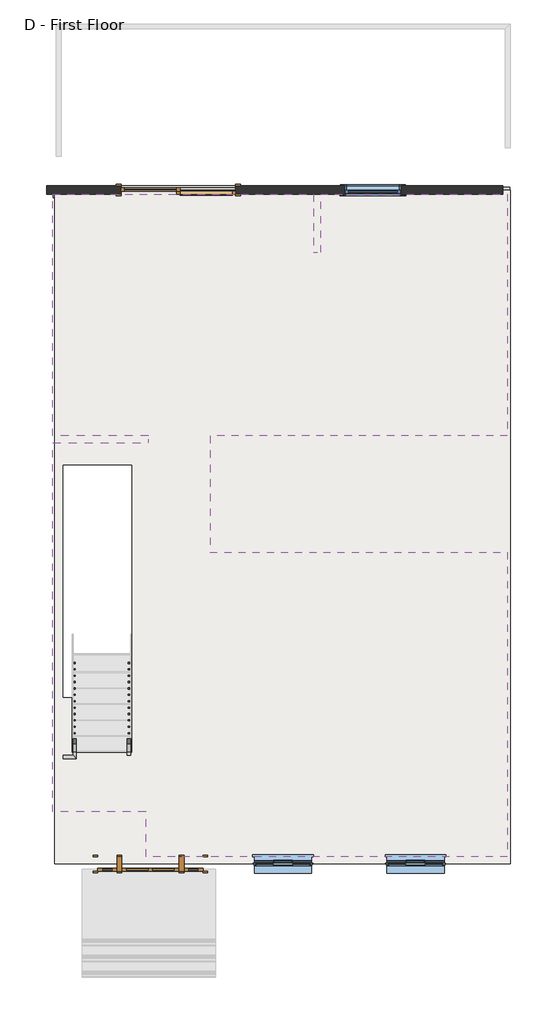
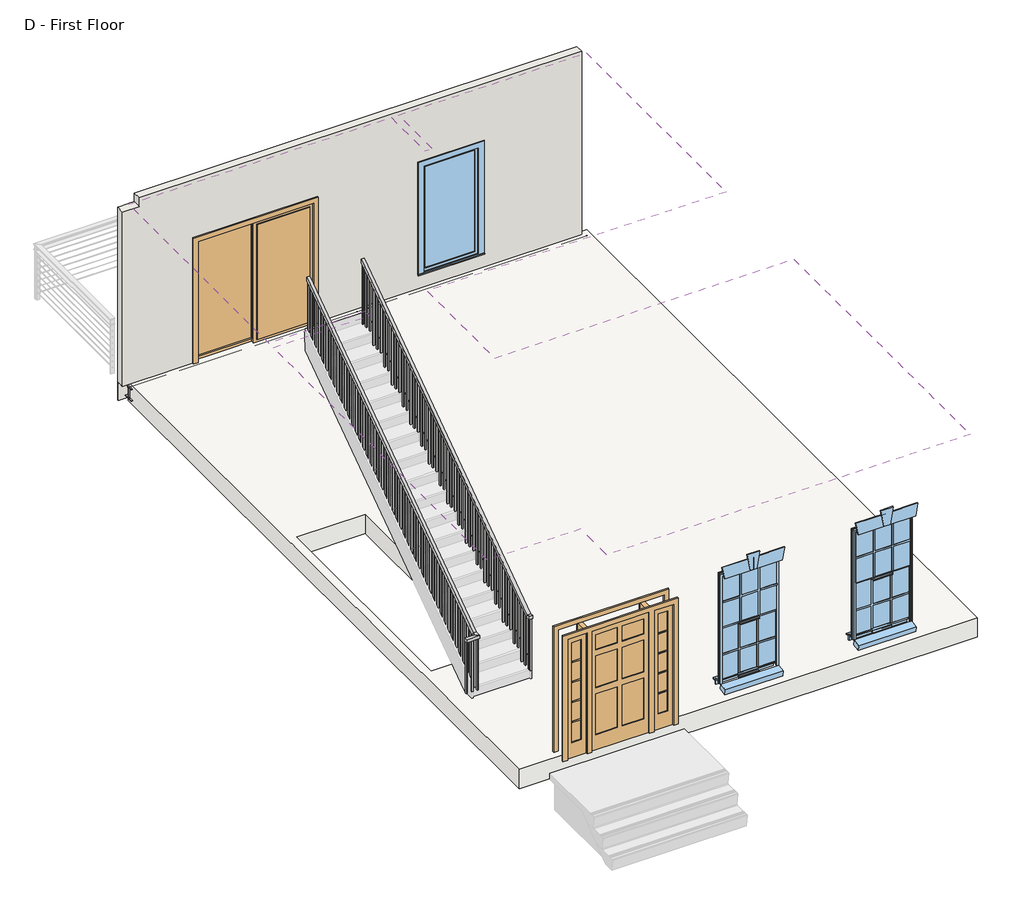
# One storey, part 1 of 2: 3 windows, 2 beams, 2 doors, 2 railings, 1 covering, 1 slab, 1 wall.
"""IFC4 building model written with IfcOpenShell, lengths in millimetres."""

from ifc_helpers import new_model, si_unit, frame, origin, place, context, project, spatial, polyline, outline, extrude, faceted_brep, transform, mapped, element, save
from components import w_wide_flange_w8x24_5daaecee, w_wide_flange_w8x24_1566cf3c, door_cdccc48c, door_ba367ff0, window_19b24cb0, window_32c76565

model = new_model("IFC4")

# Units and contexts
model_context = context("Model", 3, world=origin())
ifc_project = project(units=[si_unit("LENGTHUNIT", "METRE", prefix="MILLI")], contexts=[model_context])

# Site, building, storey
site = spatial("IfcSite", under=ifc_project)
building = spatial("IfcBuilding", under=site)
storey = spatial("IfcBuildingStorey", under=building, Name="D - First Floor", Elevation=1828.8)

# Beams
placement = place(None, origin())
w_wide_flange_w8x24_shape = w_wide_flange_w8x24_5daaecee(model_context)
element("IfcBeam", 1, ObjectType="W-Wide Flange : W8X24", at=placement, inside=storey, context=model_context, shape_type="MappedRepresentation", body=[
    mapped(w_wide_flange_w8x24_shape, transform((16035.8120514, 3462.6960538, 1670.939), x_axis=(1.0, 0.0, 0.0), y_axis=(0.0, 1.0, 0.0), z_axis=(0.0, 0.0, 1.0))),
])
w_wide_flange_w8x24_2_shape = w_wide_flange_w8x24_1566cf3c(model_context)
element("IfcBeam", 2, ObjectType="W-Wide Flange : W8X24", at=placement, inside=storey, context=model_context, shape_type="MappedRepresentation", body=[
    mapped(w_wide_flange_w8x24_2_shape, transform((12397.2620514, 3462.6960538, 1670.939), x_axis=(1.0, 0.0, 0.0), y_axis=(0.0, 1.0, 0.0), z_axis=(0.0, 0.0, 1.0))),
])

# Covering
element("IfcCovering", 3, ObjectType="GWB on Furring", at=placement, inside=storey, context=model_context, shape_type="SweptSolid", body=[
    extrude(outline(polyline([(13073.5370514, -2271.3539462), (17813.8120514, -2271.3539462), (17813.8120514, -7122.7539462), (12051.1870514, -7122.7539462), (12051.1870514, -6411.5539462), (10565.2870514, -6411.5539462), (10565.2870514, -531.4539462), (12092.4620514, -531.4539462), (12092.4620514, -417.1539462), (10565.2870514, -417.1539462), (10565.2870514, 3430.9460538), (14724.5370514, 3430.9460538), (14724.5370514, 2503.8460538), (14838.8370514, 2503.8460538), (14838.8370514, 3430.9460538), (17813.8120514, 3430.9460538), (17813.8120514, -417.2482531), (13073.5370514, -417.2482531), (13073.5370514, -2271.3539462)]), holes=[polyline([(10730.3870514, -4582.7539462), (11822.5870514, -4582.7539462), (11822.5870514, -887.0539462), (10730.3870514, -887.0539462), (10730.3870514, -4582.7539462)])]), frame((0.0, 0.0, 4851.4), z_axis=(0.0, 0.0, 1.0), x_axis=(1.0, 0.0, 0.0)), (0.0, 0.0, 1.0), 31.75),
])

# Doors
door_shape = door_cdccc48c(model_context)
element("IfcDoor", 4, ObjectType="Door-Double-Sliding : 72\" x 80\"", at=placement, inside=storey, context=model_context, shape_type="MappedRepresentation", body=[
    mapped(door_shape, transform((12565.5370514, 3624.6210538, 1828.8), x_axis=(-1.0, 0.0, 0.0), y_axis=(0.0, -1.0, 0.0), z_axis=(0.0, 0.0, 1.0))),
])
door_2_shape = door_ba367ff0(model_context)
element("IfcDoor", 5, ObjectType="Single-Raised Panel with Sidelights : 36\" x 80\" 2", at=placement, inside=storey, context=model_context, shape_type="MappedRepresentation", body=[
    mapped(door_2_shape, transform((12121.0370514, -7238.6414462, 1828.8), x_axis=(-1.0, 0.0, 0.0), y_axis=(0.0, -1.0, 0.0), z_axis=(0.0, 0.0, 1.0))),
])

# Railings
element("IfcRailing", 6, ObjectType="Handrail - Rectangular", at=placement, inside=storey, context=model_context, shape_type="SolidModel", body=[
    faceted_brep([(11752.7370514, -5509.8539462, 2939.7157895), (11752.7370514, -5509.8539462, 2888.9157895), (11803.5370514, -5509.8539462, 2888.9157895), (11803.5370514, -5509.8539462, 2939.7157895), (11752.7370514, -5459.0539462, 2939.7157895), (11752.7370514, -5443.0653277, 2888.9157895), (11803.5370514, -5443.0653277, 2888.9157895), (11803.5370514, -5459.0539462, 2939.7157895), (11752.7370514, -887.0539462, 6134.1), (11803.5370514, -887.0539462, 6134.1), (11803.5370514, -887.0539462, 6072.1290047), (11752.7370514, -887.0539462, 6072.1290047)], [[[0, 1, 2, 3]], [[1, 0, 4, 5]], [[2, 1, 5, 6]], [[3, 2, 6, 7]], [[0, 3, 7, 4]], [[8, 9, 10, 11]], [[5, 4, 8, 11]], [[6, 5, 11, 10]], [[7, 6, 10, 9]], [[4, 7, 9, 8]]]),
    extrude(outline(polyline([(-998.1789462, 5994.4877218), (-979.1289462, 6007.797656), (-979.1289462, 5042.2342105), (-998.1789462, 5042.2342105), (-998.1789462, 5994.4877218)])), frame((11768.6120514, 0.0, 0.0), z_axis=(1.0, 0.0, 0.0), x_axis=(0.0, 1.0, 0.0)), (0.0, 0.0, 1.0), 19.05),
    extrude(outline(polyline([(-1099.7789462, 5923.501406), (-1080.7289462, 5936.8113402), (-1080.7289462, 5042.2342105), (-1099.7789462, 5042.2342105), (-1099.7789462, 5923.501406)])), frame((11768.6120514, 0.0, 0.0), z_axis=(1.0, 0.0, 0.0), x_axis=(0.0, 1.0, 0.0)), (0.0, 0.0, 1.0), 19.05),
    extrude(outline(polyline([(-1201.3789462, 5852.5150902), (-1182.3289462, 5865.8250244), (-1182.3289462, 4864.7684211), (-1201.3789462, 4864.7684211), (-1201.3789462, 5852.5150902)])), frame((11768.6120514, 0.0, 0.0), z_axis=(1.0, 0.0, 0.0), x_axis=(0.0, 1.0, 0.0)), (0.0, 0.0, 1.0), 19.05),
    extrude(outline(polyline([(-1302.9789462, 5781.5287744), (-1283.9289462, 5794.8387087), (-1283.9289462, 4864.7684211), (-1302.9789462, 4864.7684211), (-1302.9789462, 5781.5287744)])), frame((11768.6120514, 0.0, 0.0), z_axis=(1.0, 0.0, 0.0), x_axis=(0.0, 1.0, 0.0)), (0.0, 0.0, 1.0), 19.05),
    extrude(outline(polyline([(-1404.5789462, 5710.5424587), (-1385.5289462, 5723.8523929), (-1385.5289462, 4864.7684211), (-1404.5789462, 4864.7684211), (-1404.5789462, 5710.5424587)])), frame((11768.6120514, 0.0, 0.0), z_axis=(1.0, 0.0, 0.0), x_axis=(0.0, 1.0, 0.0)), (0.0, 0.0, 1.0), 19.05),
    extrude(outline(polyline([(-1506.1789462, 5639.5561429), (-1487.1289462, 5652.8660771), (-1487.1289462, 4687.3026316), (-1506.1789462, 4687.3026316), (-1506.1789462, 5639.5561429)])), frame((11768.6120514, 0.0, 0.0), z_axis=(1.0, 0.0, 0.0), x_axis=(0.0, 1.0, 0.0)), (0.0, 0.0, 1.0), 19.05),
    extrude(outline(polyline([(-1607.7789462, 5568.5698271), (-1588.7289462, 5581.8797613), (-1588.7289462, 4687.3026316), (-1607.7789462, 4687.3026316), (-1607.7789462, 5568.5698271)])), frame((11768.6120514, 0.0, 0.0), z_axis=(1.0, 0.0, 0.0), x_axis=(0.0, 1.0, 0.0)), (0.0, 0.0, 1.0), 19.05),
    extrude(outline(polyline([(-1709.3789462, 5497.5835113), (-1690.3289462, 5510.8934455), (-1690.3289462, 4509.8368421), (-1709.3789462, 4509.8368421), (-1709.3789462, 5497.5835113)])), frame((11768.6120514, 0.0, 0.0), z_axis=(1.0, 0.0, 0.0), x_axis=(0.0, 1.0, 0.0)), (0.0, 0.0, 1.0), 19.05),
    extrude(outline(polyline([(-1810.9789462, 5426.5971955), (-1791.9289462, 5439.9071297), (-1791.9289462, 4509.8368421), (-1810.9789462, 4509.8368421), (-1810.9789462, 5426.5971955)])), frame((11768.6120514, 0.0, 0.0), z_axis=(1.0, 0.0, 0.0), x_axis=(0.0, 1.0, 0.0)), (0.0, 0.0, 1.0), 19.05),
    extrude(outline(polyline([(-1912.5789462, 5355.6108797), (-1893.5289462, 5368.9208139), (-1893.5289462, 4509.8368421), (-1912.5789462, 4509.8368421), (-1912.5789462, 5355.6108797)])), frame((11768.6120514, 0.0, 0.0), z_axis=(1.0, 0.0, 0.0), x_axis=(0.0, 1.0, 0.0)), (0.0, 0.0, 1.0), 19.05),
    extrude(outline(polyline([(-2014.1789462, 5284.6245639), (-1995.1289462, 5297.9344981), (-1995.1289462, 4332.3710526), (-2014.1789462, 4332.3710526), (-2014.1789462, 5284.6245639)])), frame((11768.6120514, 0.0, 0.0), z_axis=(1.0, 0.0, 0.0), x_axis=(0.0, 1.0, 0.0)), (0.0, 0.0, 1.0), 19.05),
    extrude(outline(polyline([(-2115.7789462, 5213.6382481), (-2096.7289462, 5226.9481823), (-2096.7289462, 4332.3710526), (-2115.7789462, 4332.3710526), (-2115.7789462, 5213.6382481)])), frame((11768.6120514, 0.0, 0.0), z_axis=(1.0, 0.0, 0.0), x_axis=(0.0, 1.0, 0.0)), (0.0, 0.0, 1.0), 19.05),
    extrude(outline(polyline([(-2217.3789462, 5142.6519323), (-2198.3289462, 5155.9618666), (-2198.3289462, 4154.9052632), (-2217.3789462, 4154.9052632), (-2217.3789462, 5142.6519323)])), frame((11768.6120514, 0.0, 0.0), z_axis=(1.0, 0.0, 0.0), x_axis=(0.0, 1.0, 0.0)), (0.0, 0.0, 1.0), 19.05),
    extrude(outline(polyline([(-2318.9789462, 5071.6656166), (-2299.9289462, 5084.9755508), (-2299.9289462, 4154.9052632), (-2318.9789462, 4154.9052632), (-2318.9789462, 5071.6656166)])), frame((11768.6120514, 0.0, 0.0), z_axis=(1.0, 0.0, 0.0), x_axis=(0.0, 1.0, 0.0)), (0.0, 0.0, 1.0), 19.05),
    extrude(outline(polyline([(-2420.5789462, 5000.6793008), (-2401.5289462, 5013.989235), (-2401.5289462, 4154.9052632), (-2420.5789462, 4154.9052632), (-2420.5789462, 5000.6793008)])), frame((11768.6120514, 0.0, 0.0), z_axis=(1.0, 0.0, 0.0), x_axis=(0.0, 1.0, 0.0)), (0.0, 0.0, 1.0), 19.05),
    extrude(outline(polyline([(-2522.1789462, 4929.692985), (-2503.1289462, 4943.0029192), (-2503.1289462, 3977.4394737), (-2522.1789462, 3977.4394737), (-2522.1789462, 4929.692985)])), frame((11768.6120514, 0.0, 0.0), z_axis=(1.0, 0.0, 0.0), x_axis=(0.0, 1.0, 0.0)), (0.0, 0.0, 1.0), 19.05),
    extrude(outline(polyline([(-2623.7789462, 4858.7066692), (-2604.7289462, 4872.0166034), (-2604.7289462, 3977.4394737), (-2623.7789462, 3977.4394737), (-2623.7789462, 4858.7066692)])), frame((11768.6120514, 0.0, 0.0), z_axis=(1.0, 0.0, 0.0), x_axis=(0.0, 1.0, 0.0)), (0.0, 0.0, 1.0), 19.05),
    extrude(outline(polyline([(-2725.3789462, 4787.7203534), (-2706.3289462, 4801.0302876), (-2706.3289462, 3799.9736842), (-2725.3789462, 3799.9736842), (-2725.3789462, 4787.7203534)])), frame((11768.6120514, 0.0, 0.0), z_axis=(1.0, 0.0, 0.0), x_axis=(0.0, 1.0, 0.0)), (0.0, 0.0, 1.0), 19.05),
    extrude(outline(polyline([(-2826.9789462, 4716.7340376), (-2807.9289462, 4730.0439718), (-2807.9289462, 3799.9736842), (-2826.9789462, 3799.9736842), (-2826.9789462, 4716.7340376)])), frame((11768.6120514, 0.0, 0.0), z_axis=(1.0, 0.0, 0.0), x_axis=(0.0, 1.0, 0.0)), (0.0, 0.0, 1.0), 19.05),
    extrude(outline(polyline([(-2928.5789462, 4645.7477218), (-2909.5289462, 4659.057656), (-2909.5289462, 3799.9736842), (-2928.5789462, 3799.9736842), (-2928.5789462, 4645.7477218)])), frame((11768.6120514, 0.0, 0.0), z_axis=(1.0, 0.0, 0.0), x_axis=(0.0, 1.0, 0.0)), (0.0, 0.0, 1.0), 19.05),
    extrude(outline(polyline([(-3030.1789462, 4574.761406), (-3011.1289462, 4588.0713402), (-3011.1289462, 3622.5078947), (-3030.1789462, 3622.5078947), (-3030.1789462, 4574.761406)])), frame((11768.6120514, 0.0, 0.0), z_axis=(1.0, 0.0, 0.0), x_axis=(0.0, 1.0, 0.0)), (0.0, 0.0, 1.0), 19.05),
    extrude(outline(polyline([(-3131.7789462, 4503.7750902), (-3112.7289462, 4517.0850244), (-3112.7289462, 3622.5078947), (-3131.7789462, 3622.5078947), (-3131.7789462, 4503.7750902)])), frame((11768.6120514, 0.0, 0.0), z_axis=(1.0, 0.0, 0.0), x_axis=(0.0, 1.0, 0.0)), (0.0, 0.0, 1.0), 19.05),
    extrude(outline(polyline([(-3233.3789462, 4432.7887744), (-3214.3289462, 4446.0987087), (-3214.3289462, 3445.0421053), (-3233.3789462, 3445.0421053), (-3233.3789462, 4432.7887744)])), frame((11768.6120514, 0.0, 0.0), z_axis=(1.0, 0.0, 0.0), x_axis=(0.0, 1.0, 0.0)), (0.0, 0.0, 1.0), 19.05),
    extrude(outline(polyline([(-3334.9789462, 4361.8024587), (-3315.9289462, 4375.1123929), (-3315.9289462, 3445.0421053), (-3334.9789462, 3445.0421053), (-3334.9789462, 4361.8024587)])), frame((11768.6120514, 0.0, 0.0), z_axis=(1.0, 0.0, 0.0), x_axis=(0.0, 1.0, 0.0)), (0.0, 0.0, 1.0), 19.05),
    extrude(outline(polyline([(-3436.5789462, 4290.8161429), (-3417.5289462, 4304.1260771), (-3417.5289462, 3445.0421053), (-3436.5789462, 3445.0421053), (-3436.5789462, 4290.8161429)])), frame((11768.6120514, 0.0, 0.0), z_axis=(1.0, 0.0, 0.0), x_axis=(0.0, 1.0, 0.0)), (0.0, 0.0, 1.0), 19.05),
    extrude(outline(polyline([(-3538.1789462, 4219.8298271), (-3519.1289462, 4233.1397613), (-3519.1289462, 3267.5763158), (-3538.1789462, 3267.5763158), (-3538.1789462, 4219.8298271)])), frame((11768.6120514, 0.0, 0.0), z_axis=(1.0, 0.0, 0.0), x_axis=(0.0, 1.0, 0.0)), (0.0, 0.0, 1.0), 19.05),
    extrude(outline(polyline([(-3639.7789462, 4148.8435113), (-3620.7289462, 4162.1534455), (-3620.7289462, 3267.5763158), (-3639.7789462, 3267.5763158), (-3639.7789462, 4148.8435113)])), frame((11768.6120514, 0.0, 0.0), z_axis=(1.0, 0.0, 0.0), x_axis=(0.0, 1.0, 0.0)), (0.0, 0.0, 1.0), 19.05),
    extrude(outline(polyline([(-3741.3789462, 4077.8571955), (-3722.3289462, 4091.1671297), (-3722.3289462, 3090.1105263), (-3741.3789462, 3090.1105263), (-3741.3789462, 4077.8571955)])), frame((11768.6120514, 0.0, 0.0), z_axis=(1.0, 0.0, 0.0), x_axis=(0.0, 1.0, 0.0)), (0.0, 0.0, 1.0), 19.05),
    extrude(outline(polyline([(-3842.9789462, 4006.8708797), (-3823.9289462, 4020.1808139), (-3823.9289462, 3090.1105263), (-3842.9789462, 3090.1105263), (-3842.9789462, 4006.8708797)])), frame((11768.6120514, 0.0, 0.0), z_axis=(1.0, 0.0, 0.0), x_axis=(0.0, 1.0, 0.0)), (0.0, 0.0, 1.0), 19.05),
    extrude(outline(polyline([(-3944.5789462, 3935.8845639), (-3925.5289462, 3949.1944981), (-3925.5289462, 3090.1105263), (-3944.5789462, 3090.1105263), (-3944.5789462, 3935.8845639)])), frame((11768.6120514, 0.0, 0.0), z_axis=(1.0, 0.0, 0.0), x_axis=(0.0, 1.0, 0.0)), (0.0, 0.0, 1.0), 19.05),
    extrude(outline(polyline([(-4046.1789462, 3864.8982481), (-4027.1289462, 3878.2081823), (-4027.1289462, 2912.6447368), (-4046.1789462, 2912.6447368), (-4046.1789462, 3864.8982481)])), frame((11768.6120514, 0.0, 0.0), z_axis=(1.0, 0.0, 0.0), x_axis=(0.0, 1.0, 0.0)), (0.0, 0.0, 1.0), 19.05),
    extrude(outline(polyline([(-4147.7789462, 3793.9119323), (-4128.7289462, 3807.2218666), (-4128.7289462, 2912.6447368), (-4147.7789462, 2912.6447368), (-4147.7789462, 3793.9119323)])), frame((11768.6120514, 0.0, 0.0), z_axis=(1.0, 0.0, 0.0), x_axis=(0.0, 1.0, 0.0)), (0.0, 0.0, 1.0), 19.05),
    extrude(outline(polyline([(-4249.3789462, 3722.9256166), (-4230.3289462, 3736.2355508), (-4230.3289462, 2735.1789474), (-4249.3789462, 2735.1789474), (-4249.3789462, 3722.9256166)])), frame((11768.6120514, 0.0, 0.0), z_axis=(1.0, 0.0, 0.0), x_axis=(0.0, 1.0, 0.0)), (0.0, 0.0, 1.0), 19.05),
    extrude(outline(polyline([(-4350.9789462, 3651.9393008), (-4331.9289462, 3665.249235), (-4331.9289462, 2735.1789474), (-4350.9789462, 2735.1789474), (-4350.9789462, 3651.9393008)])), frame((11768.6120514, 0.0, 0.0), z_axis=(1.0, 0.0, 0.0), x_axis=(0.0, 1.0, 0.0)), (0.0, 0.0, 1.0), 19.05),
    extrude(outline(polyline([(-4452.5789462, 3580.952985), (-4433.5289462, 3594.2629192), (-4433.5289462, 2735.1789474), (-4452.5789462, 2735.1789474), (-4452.5789462, 3580.952985)])), frame((11768.6120514, 0.0, 0.0), z_axis=(1.0, 0.0, 0.0), x_axis=(0.0, 1.0, 0.0)), (0.0, 0.0, 1.0), 19.05),
    extrude(outline(polyline([(-4554.1789462, 3509.9666692), (-4535.1289462, 3523.2766034), (-4535.1289462, 2557.7131579), (-4554.1789462, 2557.7131579), (-4554.1789462, 3509.9666692)])), frame((11768.6120514, 0.0, 0.0), z_axis=(1.0, 0.0, 0.0), x_axis=(0.0, 1.0, 0.0)), (0.0, 0.0, 1.0), 19.05),
    extrude(outline(polyline([(-4655.7789462, 3438.9803534), (-4636.7289462, 3452.2902876), (-4636.7289462, 2557.7131579), (-4655.7789462, 2557.7131579), (-4655.7789462, 3438.9803534)])), frame((11768.6120514, 0.0, 0.0), z_axis=(1.0, 0.0, 0.0), x_axis=(0.0, 1.0, 0.0)), (0.0, 0.0, 1.0), 19.05),
    extrude(outline(polyline([(-4757.3789462, 3367.9940376), (-4738.3289462, 3381.3039718), (-4738.3289462, 2380.2473684), (-4757.3789462, 2380.2473684), (-4757.3789462, 3367.9940376)])), frame((11768.6120514, 0.0, 0.0), z_axis=(1.0, 0.0, 0.0), x_axis=(0.0, 1.0, 0.0)), (0.0, 0.0, 1.0), 19.05),
    extrude(outline(polyline([(-4858.9789462, 3297.0077218), (-4839.9289462, 3310.317656), (-4839.9289462, 2380.2473684), (-4858.9789462, 2380.2473684), (-4858.9789462, 3297.0077218)])), frame((11768.6120514, 0.0, 0.0), z_axis=(1.0, 0.0, 0.0), x_axis=(0.0, 1.0, 0.0)), (0.0, 0.0, 1.0), 19.05),
    extrude(outline(polyline([(-4960.5789462, 3226.021406), (-4941.5289462, 3239.3313402), (-4941.5289462, 2380.2473684), (-4960.5789462, 2380.2473684), (-4960.5789462, 3226.021406)])), frame((11768.6120514, 0.0, 0.0), z_axis=(1.0, 0.0, 0.0), x_axis=(0.0, 1.0, 0.0)), (0.0, 0.0, 1.0), 19.05),
    extrude(outline(polyline([(-5062.1789462, 3155.0350902), (-5043.1289462, 3168.3450244), (-5043.1289462, 2202.7815789), (-5062.1789462, 2202.7815789), (-5062.1789462, 3155.0350902)])), frame((11768.6120514, 0.0, 0.0), z_axis=(1.0, 0.0, 0.0), x_axis=(0.0, 1.0, 0.0)), (0.0, 0.0, 1.0), 19.05),
    extrude(outline(polyline([(-5163.7789462, 3084.0487744), (-5144.7289462, 3097.3587087), (-5144.7289462, 2202.7815789), (-5163.7789462, 2202.7815789), (-5163.7789462, 3084.0487744)])), frame((11768.6120514, 0.0, 0.0), z_axis=(1.0, 0.0, 0.0), x_axis=(0.0, 1.0, 0.0)), (0.0, 0.0, 1.0), 19.05),
    extrude(outline(polyline([(-5265.3789462, 3013.0624587), (-5246.3289462, 3026.3723929), (-5246.3289462, 2025.3157895), (-5265.3789462, 2025.3157895), (-5265.3789462, 3013.0624587)])), frame((11768.6120514, 0.0, 0.0), z_axis=(1.0, 0.0, 0.0), x_axis=(0.0, 1.0, 0.0)), (0.0, 0.0, 1.0), 19.05),
    extrude(outline(polyline([(-5366.9789462, 2942.0761429), (-5347.9289462, 2955.3860771), (-5347.9289462, 2025.3157895), (-5366.9789462, 2025.3157895), (-5366.9789462, 2942.0761429)])), frame((11768.6120514, 0.0, 0.0), z_axis=(1.0, 0.0, 0.0), x_axis=(0.0, 1.0, 0.0)), (0.0, 0.0, 1.0), 19.05),
    extrude(outline(polyline([(11787.6620514, -5468.5789462), (11768.6120514, -5468.5789462), (11768.6120514, -5449.5289462), (11787.6620514, -5449.5289462), (11787.6620514, -5468.5789462)])), frame((0.0, 0.0, 2025.3157895), z_axis=(0.0, 0.0, 1.0), x_axis=(1.0, 0.0, 0.0)), (0.0, 0.0, 1.0), 863.6),
    extrude(outline(polyline([(-906.1039462, 6058.8190705), (-887.0539462, 6072.1290047), (-887.0539462, 5042.2342105), (-906.1039462, 5042.2342105), (-906.1039462, 6058.8190705)])), frame((11768.6120514, 0.0, 0.0), z_axis=(1.0, 0.0, 0.0), x_axis=(0.0, 1.0, 0.0)), (0.0, 0.0, 1.0), 19.05),
    extrude(outline(polyline([(11787.6620514, -5509.8539462), (11768.6120514, -5509.8539462), (11768.6120514, -5490.8039462), (11787.6620514, -5490.8039462), (11787.6620514, -5509.8539462)])), frame((0.0, 0.0, 2025.3157895), z_axis=(0.0, 0.0, 1.0), x_axis=(1.0, 0.0, 0.0)), (0.0, 0.0, 1.0), 863.6),
])
element("IfcRailing", 7, ObjectType="Handrail - Rectangular", at=placement, inside=storey, context=model_context, shape_type="SolidModel", body=[
    faceted_brep([(10730.3870514, -5509.8539462, 2939.7157895), (10730.3870514, -5509.8539462, 2888.9157895), (10730.3870514, -5560.6539462, 2888.9157895), (10730.3870514, -5560.6539462, 2939.7157895), (10889.1370514, -5509.8539462, 2939.7157895), (10889.1370514, -5509.8539462, 2888.9157895), (10939.9370514, -5560.6539462, 2888.9157895), (10939.9370514, -5560.6539462, 2939.7157895), (10889.1370514, -5459.0539462, 2939.7157895), (10889.1370514, -5443.0653277, 2888.9157895), (10939.9370514, -5443.0653277, 2888.9157895), (10939.9370514, -5459.0539462, 2939.7157895), (10889.1370514, -887.0539462, 6134.1), (10939.9370514, -887.0539462, 6134.1), (10939.9370514, -887.0539462, 6072.1290047), (10889.1370514, -887.0539462, 6072.1290047)], [[[0, 1, 2, 3]], [[1, 0, 4, 5]], [[2, 1, 5, 6]], [[3, 2, 6, 7]], [[0, 3, 7, 4]], [[5, 4, 8, 9]], [[6, 5, 9, 10]], [[7, 6, 10, 11]], [[4, 7, 11, 8]], [[12, 13, 14, 15]], [[9, 8, 12, 15]], [[10, 9, 15, 14]], [[11, 10, 14, 13]], [[8, 11, 13, 12]]]),
    extrude(outline(polyline([(-979.1289462, 6007.797656), (-979.1289462, 5042.2342105), (-998.1789462, 5042.2342105), (-998.1789462, 5994.4877218), (-979.1289462, 6007.797656)])), frame((10905.0120514, 0.0, 0.0), z_axis=(1.0, 0.0, 0.0), x_axis=(0.0, 1.0, 0.0)), (0.0, 0.0, 1.0), 19.05),
    extrude(outline(polyline([(-1080.7289462, 5936.8113402), (-1080.7289462, 5042.2342105), (-1099.7789462, 5042.2342105), (-1099.7789462, 5923.501406), (-1080.7289462, 5936.8113402)])), frame((10905.0120514, 0.0, 0.0), z_axis=(1.0, 0.0, 0.0), x_axis=(0.0, 1.0, 0.0)), (0.0, 0.0, 1.0), 19.05),
    extrude(outline(polyline([(-1182.3289462, 5865.8250244), (-1182.3289462, 4864.7684211), (-1201.3789462, 4864.7684211), (-1201.3789462, 5852.5150902), (-1182.3289462, 5865.8250244)])), frame((10905.0120514, 0.0, 0.0), z_axis=(1.0, 0.0, 0.0), x_axis=(0.0, 1.0, 0.0)), (0.0, 0.0, 1.0), 19.05),
    extrude(outline(polyline([(-1283.9289462, 5794.8387087), (-1283.9289462, 4864.7684211), (-1302.9789462, 4864.7684211), (-1302.9789462, 5781.5287744), (-1283.9289462, 5794.8387087)])), frame((10905.0120514, 0.0, 0.0), z_axis=(1.0, 0.0, 0.0), x_axis=(0.0, 1.0, 0.0)), (0.0, 0.0, 1.0), 19.05),
    extrude(outline(polyline([(-1385.5289462, 5723.8523929), (-1385.5289462, 4864.7684211), (-1404.5789462, 4864.7684211), (-1404.5789462, 5710.5424587), (-1385.5289462, 5723.8523929)])), frame((10905.0120514, 0.0, 0.0), z_axis=(1.0, 0.0, 0.0), x_axis=(0.0, 1.0, 0.0)), (0.0, 0.0, 1.0), 19.05),
    extrude(outline(polyline([(-1487.1289462, 5652.8660771), (-1487.1289462, 4687.3026316), (-1506.1789462, 4687.3026316), (-1506.1789462, 5639.5561429), (-1487.1289462, 5652.8660771)])), frame((10905.0120514, 0.0, 0.0), z_axis=(1.0, 0.0, 0.0), x_axis=(0.0, 1.0, 0.0)), (0.0, 0.0, 1.0), 19.05),
    extrude(outline(polyline([(-1588.7289462, 5581.8797613), (-1588.7289462, 4687.3026316), (-1607.7789462, 4687.3026316), (-1607.7789462, 5568.5698271), (-1588.7289462, 5581.8797613)])), frame((10905.0120514, 0.0, 0.0), z_axis=(1.0, 0.0, 0.0), x_axis=(0.0, 1.0, 0.0)), (0.0, 0.0, 1.0), 19.05),
    extrude(outline(polyline([(-1690.3289462, 5510.8934455), (-1690.3289462, 4509.8368421), (-1709.3789462, 4509.8368421), (-1709.3789462, 5497.5835113), (-1690.3289462, 5510.8934455)])), frame((10905.0120514, 0.0, 0.0), z_axis=(1.0, 0.0, 0.0), x_axis=(0.0, 1.0, 0.0)), (0.0, 0.0, 1.0), 19.05),
    extrude(outline(polyline([(-1791.9289462, 5439.9071297), (-1791.9289462, 4509.8368421), (-1810.9789462, 4509.8368421), (-1810.9789462, 5426.5971955), (-1791.9289462, 5439.9071297)])), frame((10905.0120514, 0.0, 0.0), z_axis=(1.0, 0.0, 0.0), x_axis=(0.0, 1.0, 0.0)), (0.0, 0.0, 1.0), 19.05),
    extrude(outline(polyline([(-1893.5289462, 5368.9208139), (-1893.5289462, 4509.8368421), (-1912.5789462, 4509.8368421), (-1912.5789462, 5355.6108797), (-1893.5289462, 5368.9208139)])), frame((10905.0120514, 0.0, 0.0), z_axis=(1.0, 0.0, 0.0), x_axis=(0.0, 1.0, 0.0)), (0.0, 0.0, 1.0), 19.05),
    extrude(outline(polyline([(-1995.1289462, 5297.9344981), (-1995.1289462, 4332.3710526), (-2014.1789462, 4332.3710526), (-2014.1789462, 5284.6245639), (-1995.1289462, 5297.9344981)])), frame((10905.0120514, 0.0, 0.0), z_axis=(1.0, 0.0, 0.0), x_axis=(0.0, 1.0, 0.0)), (0.0, 0.0, 1.0), 19.05),
    extrude(outline(polyline([(-2096.7289462, 5226.9481823), (-2096.7289462, 4332.3710526), (-2115.7789462, 4332.3710526), (-2115.7789462, 5213.6382481), (-2096.7289462, 5226.9481823)])), frame((10905.0120514, 0.0, 0.0), z_axis=(1.0, 0.0, 0.0), x_axis=(0.0, 1.0, 0.0)), (0.0, 0.0, 1.0), 19.05),
    extrude(outline(polyline([(-2198.3289462, 5155.9618666), (-2198.3289462, 4154.9052632), (-2217.3789462, 4154.9052632), (-2217.3789462, 5142.6519323), (-2198.3289462, 5155.9618666)])), frame((10905.0120514, 0.0, 0.0), z_axis=(1.0, 0.0, 0.0), x_axis=(0.0, 1.0, 0.0)), (0.0, 0.0, 1.0), 19.05),
    extrude(outline(polyline([(-2299.9289462, 5084.9755508), (-2299.9289462, 4154.9052632), (-2318.9789462, 4154.9052632), (-2318.9789462, 5071.6656166), (-2299.9289462, 5084.9755508)])), frame((10905.0120514, 0.0, 0.0), z_axis=(1.0, 0.0, 0.0), x_axis=(0.0, 1.0, 0.0)), (0.0, 0.0, 1.0), 19.05),
    extrude(outline(polyline([(-2401.5289462, 5013.989235), (-2401.5289462, 4154.9052632), (-2420.5789462, 4154.9052632), (-2420.5789462, 5000.6793008), (-2401.5289462, 5013.989235)])), frame((10905.0120514, 0.0, 0.0), z_axis=(1.0, 0.0, 0.0), x_axis=(0.0, 1.0, 0.0)), (0.0, 0.0, 1.0), 19.05),
    extrude(outline(polyline([(-2503.1289462, 4943.0029192), (-2503.1289462, 3977.4394737), (-2522.1789462, 3977.4394737), (-2522.1789462, 4929.692985), (-2503.1289462, 4943.0029192)])), frame((10905.0120514, 0.0, 0.0), z_axis=(1.0, 0.0, 0.0), x_axis=(0.0, 1.0, 0.0)), (0.0, 0.0, 1.0), 19.05),
    extrude(outline(polyline([(-2604.7289462, 4872.0166034), (-2604.7289462, 3977.4394737), (-2623.7789462, 3977.4394737), (-2623.7789462, 4858.7066692), (-2604.7289462, 4872.0166034)])), frame((10905.0120514, 0.0, 0.0), z_axis=(1.0, 0.0, 0.0), x_axis=(0.0, 1.0, 0.0)), (0.0, 0.0, 1.0), 19.05),
    extrude(outline(polyline([(-2706.3289462, 4801.0302876), (-2706.3289462, 3799.9736842), (-2725.3789462, 3799.9736842), (-2725.3789462, 4787.7203534), (-2706.3289462, 4801.0302876)])), frame((10905.0120514, 0.0, 0.0), z_axis=(1.0, 0.0, 0.0), x_axis=(0.0, 1.0, 0.0)), (0.0, 0.0, 1.0), 19.05),
    extrude(outline(polyline([(-2807.9289462, 4730.0439718), (-2807.9289462, 3799.9736842), (-2826.9789462, 3799.9736842), (-2826.9789462, 4716.7340376), (-2807.9289462, 4730.0439718)])), frame((10905.0120514, 0.0, 0.0), z_axis=(1.0, 0.0, 0.0), x_axis=(0.0, 1.0, 0.0)), (0.0, 0.0, 1.0), 19.05),
    extrude(outline(polyline([(-2909.5289462, 4659.057656), (-2909.5289462, 3799.9736842), (-2928.5789462, 3799.9736842), (-2928.5789462, 4645.7477218), (-2909.5289462, 4659.057656)])), frame((10905.0120514, 0.0, 0.0), z_axis=(1.0, 0.0, 0.0), x_axis=(0.0, 1.0, 0.0)), (0.0, 0.0, 1.0), 19.05),
    extrude(outline(polyline([(-3011.1289462, 4588.0713402), (-3011.1289462, 3622.5078947), (-3030.1789462, 3622.5078947), (-3030.1789462, 4574.761406), (-3011.1289462, 4588.0713402)])), frame((10905.0120514, 0.0, 0.0), z_axis=(1.0, 0.0, 0.0), x_axis=(0.0, 1.0, 0.0)), (0.0, 0.0, 1.0), 19.05),
    extrude(outline(polyline([(-3112.7289462, 4517.0850244), (-3112.7289462, 3622.5078947), (-3131.7789462, 3622.5078947), (-3131.7789462, 4503.7750902), (-3112.7289462, 4517.0850244)])), frame((10905.0120514, 0.0, 0.0), z_axis=(1.0, 0.0, 0.0), x_axis=(0.0, 1.0, 0.0)), (0.0, 0.0, 1.0), 19.05),
    extrude(outline(polyline([(-3214.3289462, 4446.0987087), (-3214.3289462, 3445.0421053), (-3233.3789462, 3445.0421053), (-3233.3789462, 4432.7887744), (-3214.3289462, 4446.0987087)])), frame((10905.0120514, 0.0, 0.0), z_axis=(1.0, 0.0, 0.0), x_axis=(0.0, 1.0, 0.0)), (0.0, 0.0, 1.0), 19.05),
    extrude(outline(polyline([(-3315.9289462, 4375.1123929), (-3315.9289462, 3445.0421053), (-3334.9789462, 3445.0421053), (-3334.9789462, 4361.8024587), (-3315.9289462, 4375.1123929)])), frame((10905.0120514, 0.0, 0.0), z_axis=(1.0, 0.0, 0.0), x_axis=(0.0, 1.0, 0.0)), (0.0, 0.0, 1.0), 19.05),
    extrude(outline(polyline([(-3417.5289462, 4304.1260771), (-3417.5289462, 3445.0421053), (-3436.5789462, 3445.0421053), (-3436.5789462, 4290.8161429), (-3417.5289462, 4304.1260771)])), frame((10905.0120514, 0.0, 0.0), z_axis=(1.0, 0.0, 0.0), x_axis=(0.0, 1.0, 0.0)), (0.0, 0.0, 1.0), 19.05),
    extrude(outline(polyline([(-3519.1289462, 4233.1397613), (-3519.1289462, 3267.5763158), (-3538.1789462, 3267.5763158), (-3538.1789462, 4219.8298271), (-3519.1289462, 4233.1397613)])), frame((10905.0120514, 0.0, 0.0), z_axis=(1.0, 0.0, 0.0), x_axis=(0.0, 1.0, 0.0)), (0.0, 0.0, 1.0), 19.05),
    extrude(outline(polyline([(-3620.7289462, 4162.1534455), (-3620.7289462, 3267.5763158), (-3639.7789462, 3267.5763158), (-3639.7789462, 4148.8435113), (-3620.7289462, 4162.1534455)])), frame((10905.0120514, 0.0, 0.0), z_axis=(1.0, 0.0, 0.0), x_axis=(0.0, 1.0, 0.0)), (0.0, 0.0, 1.0), 19.05),
    extrude(outline(polyline([(-3722.3289462, 4091.1671297), (-3722.3289462, 3090.1105263), (-3741.3789462, 3090.1105263), (-3741.3789462, 4077.8571955), (-3722.3289462, 4091.1671297)])), frame((10905.0120514, 0.0, 0.0), z_axis=(1.0, 0.0, 0.0), x_axis=(0.0, 1.0, 0.0)), (0.0, 0.0, 1.0), 19.05),
    extrude(outline(polyline([(-3823.9289462, 4020.1808139), (-3823.9289462, 3090.1105263), (-3842.9789462, 3090.1105263), (-3842.9789462, 4006.8708797), (-3823.9289462, 4020.1808139)])), frame((10905.0120514, 0.0, 0.0), z_axis=(1.0, 0.0, 0.0), x_axis=(0.0, 1.0, 0.0)), (0.0, 0.0, 1.0), 19.05),
    extrude(outline(polyline([(-3925.5289462, 3949.1944981), (-3925.5289462, 3090.1105263), (-3944.5789462, 3090.1105263), (-3944.5789462, 3935.8845639), (-3925.5289462, 3949.1944981)])), frame((10905.0120514, 0.0, 0.0), z_axis=(1.0, 0.0, 0.0), x_axis=(0.0, 1.0, 0.0)), (0.0, 0.0, 1.0), 19.05),
    extrude(outline(polyline([(-4027.1289462, 3878.2081823), (-4027.1289462, 2912.6447368), (-4046.1789462, 2912.6447368), (-4046.1789462, 3864.8982481), (-4027.1289462, 3878.2081823)])), frame((10905.0120514, 0.0, 0.0), z_axis=(1.0, 0.0, 0.0), x_axis=(0.0, 1.0, 0.0)), (0.0, 0.0, 1.0), 19.05),
    extrude(outline(polyline([(-4128.7289462, 3807.2218666), (-4128.7289462, 2912.6447368), (-4147.7789462, 2912.6447368), (-4147.7789462, 3793.9119323), (-4128.7289462, 3807.2218666)])), frame((10905.0120514, 0.0, 0.0), z_axis=(1.0, 0.0, 0.0), x_axis=(0.0, 1.0, 0.0)), (0.0, 0.0, 1.0), 19.05),
    extrude(outline(polyline([(-4230.3289462, 3736.2355508), (-4230.3289462, 2735.1789474), (-4249.3789462, 2735.1789474), (-4249.3789462, 3722.9256166), (-4230.3289462, 3736.2355508)])), frame((10905.0120514, 0.0, 0.0), z_axis=(1.0, 0.0, 0.0), x_axis=(0.0, 1.0, 0.0)), (0.0, 0.0, 1.0), 19.05),
    extrude(outline(polyline([(-4331.9289462, 3665.249235), (-4331.9289462, 2735.1789474), (-4350.9789462, 2735.1789474), (-4350.9789462, 3651.9393008), (-4331.9289462, 3665.249235)])), frame((10905.0120514, 0.0, 0.0), z_axis=(1.0, 0.0, 0.0), x_axis=(0.0, 1.0, 0.0)), (0.0, 0.0, 1.0), 19.05),
    extrude(outline(polyline([(-4433.5289462, 3594.2629192), (-4433.5289462, 2735.1789474), (-4452.5789462, 2735.1789474), (-4452.5789462, 3580.952985), (-4433.5289462, 3594.2629192)])), frame((10905.0120514, 0.0, 0.0), z_axis=(1.0, 0.0, 0.0), x_axis=(0.0, 1.0, 0.0)), (0.0, 0.0, 1.0), 19.05),
    extrude(outline(polyline([(-4535.1289462, 3523.2766034), (-4535.1289462, 2557.7131579), (-4554.1789462, 2557.7131579), (-4554.1789462, 3509.9666692), (-4535.1289462, 3523.2766034)])), frame((10905.0120514, 0.0, 0.0), z_axis=(1.0, 0.0, 0.0), x_axis=(0.0, 1.0, 0.0)), (0.0, 0.0, 1.0), 19.05),
    extrude(outline(polyline([(-4636.7289462, 3452.2902876), (-4636.7289462, 2557.7131579), (-4655.7789462, 2557.7131579), (-4655.7789462, 3438.9803534), (-4636.7289462, 3452.2902876)])), frame((10905.0120514, 0.0, 0.0), z_axis=(1.0, 0.0, 0.0), x_axis=(0.0, 1.0, 0.0)), (0.0, 0.0, 1.0), 19.05),
    extrude(outline(polyline([(-4738.3289462, 3381.3039718), (-4738.3289462, 2380.2473684), (-4757.3789462, 2380.2473684), (-4757.3789462, 3367.9940376), (-4738.3289462, 3381.3039718)])), frame((10905.0120514, 0.0, 0.0), z_axis=(1.0, 0.0, 0.0), x_axis=(0.0, 1.0, 0.0)), (0.0, 0.0, 1.0), 19.05),
    extrude(outline(polyline([(-4839.9289462, 3310.317656), (-4839.9289462, 2380.2473684), (-4858.9789462, 2380.2473684), (-4858.9789462, 3297.0077218), (-4839.9289462, 3310.317656)])), frame((10905.0120514, 0.0, 0.0), z_axis=(1.0, 0.0, 0.0), x_axis=(0.0, 1.0, 0.0)), (0.0, 0.0, 1.0), 19.05),
    extrude(outline(polyline([(-4941.5289462, 3239.3313402), (-4941.5289462, 2380.2473684), (-4960.5789462, 2380.2473684), (-4960.5789462, 3226.021406), (-4941.5289462, 3239.3313402)])), frame((10905.0120514, 0.0, 0.0), z_axis=(1.0, 0.0, 0.0), x_axis=(0.0, 1.0, 0.0)), (0.0, 0.0, 1.0), 19.05),
    extrude(outline(polyline([(-5043.1289462, 3168.3450244), (-5043.1289462, 2202.7815789), (-5062.1789462, 2202.7815789), (-5062.1789462, 3155.0350902), (-5043.1289462, 3168.3450244)])), frame((10905.0120514, 0.0, 0.0), z_axis=(1.0, 0.0, 0.0), x_axis=(0.0, 1.0, 0.0)), (0.0, 0.0, 1.0), 19.05),
    extrude(outline(polyline([(-5144.7289462, 3097.3587087), (-5144.7289462, 2202.7815789), (-5163.7789462, 2202.7815789), (-5163.7789462, 3084.0487744), (-5144.7289462, 3097.3587087)])), frame((10905.0120514, 0.0, 0.0), z_axis=(1.0, 0.0, 0.0), x_axis=(0.0, 1.0, 0.0)), (0.0, 0.0, 1.0), 19.05),
    extrude(outline(polyline([(-5246.3289462, 3026.3723929), (-5246.3289462, 2025.3157895), (-5265.3789462, 2025.3157895), (-5265.3789462, 3013.0624587), (-5246.3289462, 3026.3723929)])), frame((10905.0120514, 0.0, 0.0), z_axis=(1.0, 0.0, 0.0), x_axis=(0.0, 1.0, 0.0)), (0.0, 0.0, 1.0), 19.05),
    extrude(outline(polyline([(-5347.9289462, 2955.3860771), (-5347.9289462, 2025.3157895), (-5366.9789462, 2025.3157895), (-5366.9789462, 2942.0761429), (-5347.9289462, 2955.3860771)])), frame((10905.0120514, 0.0, 0.0), z_axis=(1.0, 0.0, 0.0), x_axis=(0.0, 1.0, 0.0)), (0.0, 0.0, 1.0), 19.05),
    extrude(outline(polyline([(10822.4620514, -5525.7289462), (10841.5120514, -5525.7289462), (10841.5120514, -5544.7789462), (10822.4620514, -5544.7789462), (10822.4620514, -5525.7289462)])), frame((0.0, 0.0, 2025.3157895), z_axis=(0.0, 0.0, 1.0), x_axis=(1.0, 0.0, 0.0)), (0.0, 0.0, 1.0), 863.6),
    extrude(outline(polyline([(10905.0120514, -5468.5789462), (10905.0120514, -5449.5289462), (10924.0620514, -5449.5289462), (10924.0620514, -5468.5789462), (10905.0120514, -5468.5789462)])), frame((0.0, 0.0, 2025.3157895), z_axis=(0.0, 0.0, 1.0), x_axis=(1.0, 0.0, 0.0)), (0.0, 0.0, 1.0), 863.6),
    extrude(outline(polyline([(10905.0120514, -5525.7289462), (10924.0620514, -5525.7289462), (10924.0620514, -5544.7789462), (10905.0120514, -5544.7789462), (10905.0120514, -5525.7289462)])), frame((0.0, 0.0, 2025.3157895), z_axis=(0.0, 0.0, 1.0), x_axis=(1.0, 0.0, 0.0)), (0.0, 0.0, 1.0), 863.6),
    extrude(outline(polyline([(-887.0539462, 6072.1290047), (-887.0539462, 5042.2342105), (-906.1039462, 5042.2342105), (-906.1039462, 6058.8190705), (-887.0539462, 6072.1290047)])), frame((10905.0120514, 0.0, 0.0), z_axis=(1.0, 0.0, 0.0), x_axis=(0.0, 1.0, 0.0)), (0.0, 0.0, 1.0), 19.05),
    extrude(outline(polyline([(10730.3870514, -5525.7289462), (10749.4370514, -5525.7289462), (10749.4370514, -5544.7789462), (10730.3870514, -5544.7789462), (10730.3870514, -5525.7289462)])), frame((0.0, 0.0, 2025.3157895), z_axis=(0.0, 0.0, 1.0), x_axis=(1.0, 0.0, 0.0)), (0.0, 0.0, 1.0), 863.6),
])

# Slab
element("IfcSlab", 8, ObjectType="Wood Truss  Joist 12\"", at=placement, inside=storey, context=model_context, shape_type="SweptSolid", body=[
    extrude(outline(polyline([(17859.8495514, 3497.6210538), (17859.8495514, -7238.6414462), (10597.0370514, -7238.6414462), (10597.0370514, 3497.6210538), (17859.8495514, 3497.6210538)]), holes=[polyline([(10730.3870514, -4582.7539462), (11822.5870514, -4582.7539462), (11822.5870514, -887.0539462), (10730.3870514, -887.0539462), (10730.3870514, -4582.7539462)])]), frame((0.0, 0.0, 1508.125), z_axis=(0.0, 0.0, 1.0), x_axis=(1.0, 0.0, 0.0)), (0.0, 0.0, 1.0), 320.675),
])

# Wall
element("IfcWall", 9, ObjectType="Exterior - Wood Siding on Wood Stud", at=placement, inside=storey, context=model_context, shape_type="Brep", body=[
    faceted_brep([(17743.9620514, 3430.9460538, 4902.2), (10730.3870514, 3430.9460538, 4902.2), (10730.3870514, 3430.9460538, 4756.15), (10463.6870514, 3430.9460538, 4756.15), (10463.6870514, 3430.9460538, 4292.6), (10463.6870514, 3430.9460538, 1828.8), (10730.3870514, 3430.9460538, 1828.8), (11651.1370514, 3430.9460538, 1828.8), (11651.1370514, 3430.9460538, 3860.8), (13479.9370514, 3430.9460538, 3860.8), (13479.9370514, 3430.9460538, 1828.8), (17743.9620514, 3430.9460538, 1828.8), (15211.8995514, 3430.9460538, 2057.4), (15211.8995514, 3430.9460538, 3886.2), (16126.2995514, 3430.9460538, 3886.2), (16126.2995514, 3430.9460538, 2057.4), (10730.3870514, 3564.2960538, 4902.2), (17743.9620514, 3564.2960538, 4902.2), (17743.9620514, 3564.2960538, 4832.35), (17743.9620514, 3564.2960538, 1828.8), (17743.9620514, 3564.2960538, 1524.0), (10463.6870514, 3564.2960538, 1524.0), (10463.6870514, 3564.2960538, 4292.6), (10463.6870514, 3564.2960538, 4756.15), (10524.0120514, 3564.2960538, 4756.15), (10670.0620514, 3564.2960538, 4756.15), (10730.3870514, 3564.2960538, 4756.15), (13479.9370514, 3564.2960538, 1828.8), (13479.9370514, 3564.2960538, 3860.8), (11651.1370514, 3564.2960538, 3860.8), (11651.1370514, 3564.2960538, 1828.8), (15211.8995514, 3564.2960538, 3886.2), (15211.8995514, 3564.2960538, 2057.4), (16126.2995514, 3564.2960538, 2057.4), (16126.2995514, 3564.2960538, 3886.2), (13479.9370514, 3545.2460538, 1828.8), (17743.9620514, 3545.2460538, 1828.8), (17743.9620514, 3497.6210538, 1828.8), (10463.6870514, 3497.6210538, 1828.8), (10463.6870514, 3545.2460538, 1828.8), (11651.1370514, 3545.2460538, 1828.8), (10463.6870514, 3545.2460538, 1524.0), (17743.9620514, 3545.2460538, 1524.0)], [[[0, 1, 2, 3, 4, 5, 6, 7, 8, 9, 10, 11], [12, 13, 14, 15]], [[16, 17, 18, 19, 20, 21, 22, 23, 24, 25, 26], [27, 28, 29, 30], [31, 32, 33, 34]], [[1, 0, 17, 16]], [[11, 10, 35, 36, 37]], [[7, 6, 5, 38, 39, 40]], [[41, 42, 36, 35, 40, 39]], [[9, 28, 27, 35, 10]], [[27, 30, 40, 35]], [[29, 8, 7, 40, 30]], [[28, 9, 8, 29]], [[31, 13, 12, 32]], [[32, 12, 15, 33]], [[33, 15, 14, 34]], [[13, 31, 34, 14]], [[17, 0, 11, 37, 36, 42, 20, 19, 18]], [[26, 25, 24, 23, 3, 2]], [[3, 23, 22, 21, 41, 39, 38, 5, 4]], [[21, 20, 42, 41]], [[26, 2, 1, 16]]]),
])

# Windows
window_shape = window_19b24cb0(model_context)
element("IfcWindow", 10, ObjectType="Fixed with Trim : 36\" x 72\"", at=placement, inside=storey, context=model_context, shape_type="MappedRepresentation", body=[
    mapped(window_shape, transform((15630.9995514, 3497.6210538, 1752.6), x_axis=(-1.0, 0.0, 0.0), y_axis=(0.0, -1.0, 0.0), z_axis=(0.0, 0.0, 1.0))),
])
window_2_shape = window_32c76565(model_context)
element("IfcWindow", 11, ObjectType="Single_Hung_Aluminum_Window_at_Brick_L : 36\"x72\"", at=placement, inside=storey, context=model_context, shape_type="MappedRepresentation", body=[
    mapped(window_2_shape, transform((16196.578409, -7238.6414462, 1549.4), x_axis=(-1.0, 0.0, 0.0), y_axis=(0.0, -1.0, 0.0), z_axis=(0.0, 0.0, 1.0))),
])
element("IfcWindow", 12, ObjectType="Single_Hung_Aluminum_Window_at_Brick_L : 36\"x72\"", at=placement, inside=storey, context=model_context, shape_type="MappedRepresentation", body=[
    mapped(window_2_shape, transform((14082.4807302, -7238.6414462, 1549.4), x_axis=(-1.0, 0.0, 0.0), y_axis=(0.0, -1.0, 0.0), z_axis=(0.0, 0.0, 1.0))),
])

save(model, "model.ifc")
